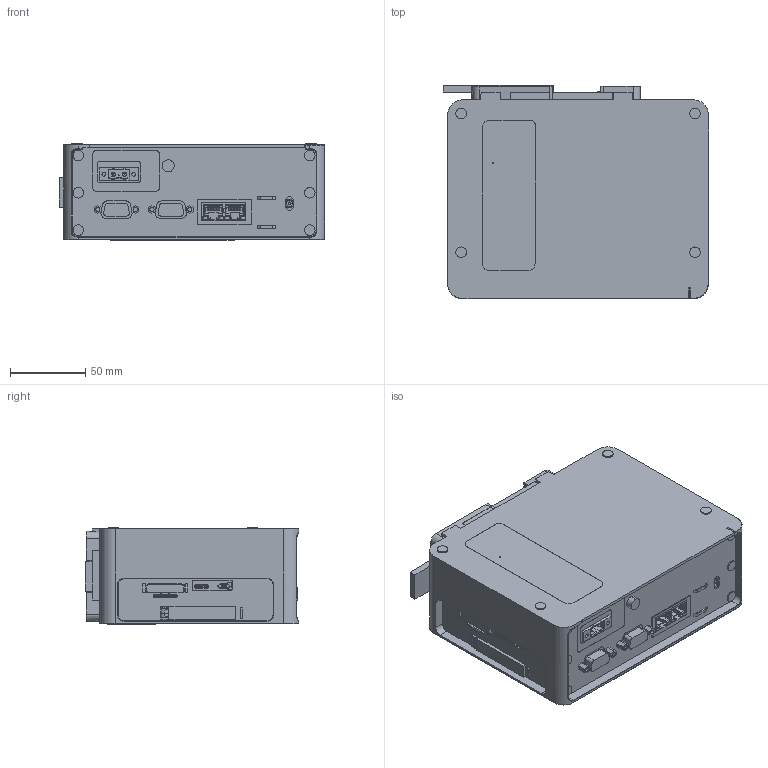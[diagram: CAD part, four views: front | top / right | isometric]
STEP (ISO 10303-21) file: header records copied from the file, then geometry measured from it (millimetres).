
FILE_DESCRIPTION (( 'STEP AP203' ), '1' );
FILE_NAME ('PFXGP6B40AI.STEP', '2024-06-04T12:24:30', ( '' ), ( '' ), 'SwSTEP 2.0', 'SolidWorks 2021', '' );
FILE_SCHEMA (( 'CONFIG_CONTROL_DESIGN' ));
Products named in the file (1): PFXGP6B40AI
Bounding box: 175.73 x 141.4 x 64.08 mm (x, y, z)
Volume: 1408290 mm3; surface area: 102310.2 mm2
Topology: 3 solids, 39 shells, 2849 faces, 8071 edges, 5312 vertices
Faces by surface type: plane 1973, cylinder 635, bspline 128, cone 109, torus 4
Entity records: 99564 total; most frequent: CARTESIAN_POINT 26986, ORIENTED_EDGE 16122, DIRECTION 13631, EDGE_CURVE 8061, LINE 5965, VECTOR 5965, VERTEX_POINT 5312, AXIS2_PLACEMENT_3D 3833
